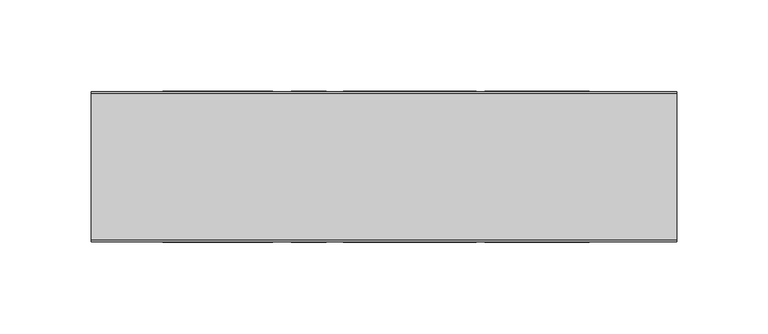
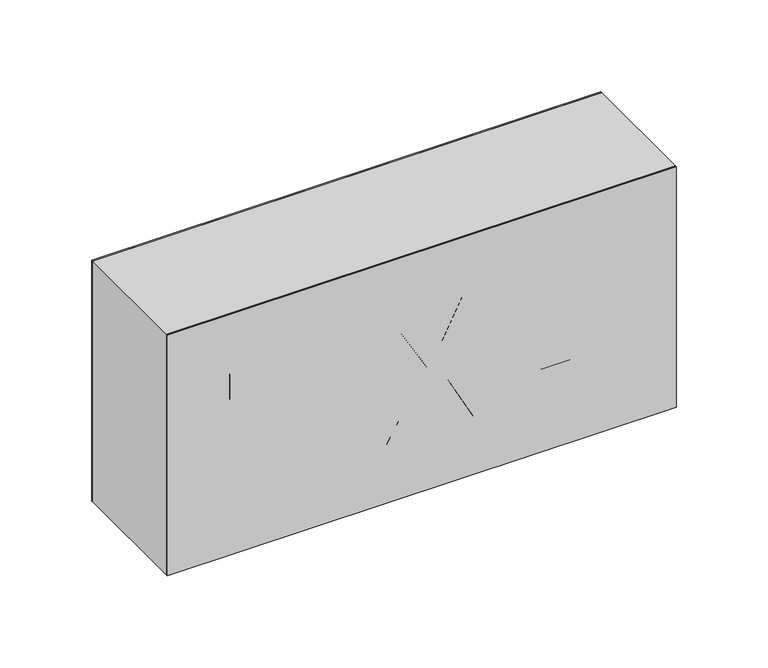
"""IFC4 building model written with IfcOpenShell, lengths in millimetres: light fixture geometry, AI_Luminaire_BAES : Sortie."""

from ifc_helpers import new_model, si_unit, frame, origin, place, context, project, spatial, polyline, outline, extrude, source, transform, mapped, element, save


def light_fixture_1fd30b04(model_context):
    return source(origin(), model_context, "Body", "SweptSolid", [
        extrude(outline(polyline([(160.0, 40.0), (160.0, -40.0), (-160.0, -40.0), (-160.0, 40.0), (160.0, 40.0)])), frame((0.0, 0.0, -40.4480749), z_axis=(0.0, 0.0, 1.0), x_axis=(1.0, 0.0, 0.0)), (0.0, 0.0, 1.0), 160.0),
        extrude(outline(polyline([(-160.0, 41.0), (160.0, 41.0), (160.0, 40.2), (-160.0, 40.2), (-160.0, 41.0)])), frame((0.0, 0.0, -40.4480749), z_axis=(0.0, 0.0, 1.0), x_axis=(1.0, 0.0, 0.0)), (0.0, 0.0, 1.0), 160.0),
        extrude(outline(polyline([(63.8823781, 92.9939271), (47.8823781, 92.9939271), (47.8823781, 62.9939271), (32.5361645, 62.9939271), (32.5361645, 92.9939271), (14.9167358, 92.9939271), (14.9167358, 54.9939271), (-1.1607479, 54.9939271), (-1.1607479, 112.3152081), (79.9598617, 112.3152081), (79.9598617, 54.9939271), (63.8823781, 54.9939271), (63.8823781, 92.9939271)])), frame((0.0, 40.0, 0.0), z_axis=(0.0, 1.0, 0.0), x_axis=(0.0, 0.0, 1.0)), (0.0, 0.0, 1.0), 1.2),
        extrude(outline(polyline([(-1.2252589, 32.0169811), (-1.2252589, 50.4095384), (41.6053757, 25.1932906), (80.0714062, 47.1715926), (80.0714062, 25.0214388), (54.787815, 12.1388057), (80.0714062, -0.7438275), (80.0714062, -19.1439812), (41.6053757, 2.8343208), (-1.2252589, -22.381927), (-1.2252589, 0.3856302), (28.5197006, 16.2013057), (-1.2252589, 32.0169811)])), frame((0.0, 40.0, 0.0), z_axis=(0.0, 1.0, 0.0), x_axis=(0.0, 0.0, 1.0)), (0.0, 0.0, 1.0), 1.2),
        extrude(outline(polyline([(-50.6212787, 41.2), (-31.6527328, 41.2), (-31.6527328, 40.0), (-50.6212787, 40.0), (-50.6212787, 41.2)])), frame((0.0, 0.0, -1.1607479), z_axis=(0.0, 0.0, 1.0), x_axis=(1.0, 0.0, 0.0)), (0.0, 0.0, 1.0), 81.1206097),
        extrude(outline(polyline([(63.4316344, -120.9573689), (63.4316344, -100.5263264), (-1.1607479, -100.5263264), (-1.1607479, -81.6550536), (63.4316344, -81.6550536), (63.4316344, -60.9573689), (79.9598617, -60.9573689), (79.9598617, -120.9573689), (63.4316344, -120.9573689)])), frame((0.0, 40.0, 0.0), z_axis=(0.0, 1.0, 0.0), x_axis=(0.0, 0.0, 1.0)), (0.0, 0.0, 1.0), 1.2),
        extrude(outline(polyline([(160.0, -41.0), (-160.0, -41.0), (-160.0, -40.2), (160.0, -40.2), (160.0, -41.0)])), frame((0.0, 0.0, -40.4480749), z_axis=(0.0, 0.0, 1.0), x_axis=(1.0, 0.0, 0.0)), (0.0, 0.0, 1.0), 160.0),
        extrude(outline(polyline([(0.0, 0.0), (16.0, 0.0), (16.0, 30.0), (31.3462136, 30.0), (31.3462136, 0.0), (48.9656423, 0.0), (48.9656423, 38.0), (65.043126, 38.0), (65.043126, -19.321281), (-16.0774836, -19.321281), (-16.0774836, 38.0), (0.0, 38.0), (0.0, 0.0)])), frame((92.9939271, -41.2, 63.8823781), z_axis=(-3.6444929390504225e-12, 1.0, 0.0), x_axis=(0.0, 0.0, -1.0)), (0.0, 0.0, 1.0), 1.2),
        extrude(outline(polyline([(65.107637, 60.976946), (65.107637, 42.5843887), (22.2770024, 67.8006365), (-16.1890281, 45.8223345), (-16.1890281, 67.9724883), (9.0945631, 80.8551214), (-16.1890281, 93.7377546), (-16.1890281, 112.1379083), (22.2770024, 90.1596063), (65.107637, 115.3758541), (65.107637, 92.6082969), (35.3626775, 76.7926214), (65.107637, 60.976946)])), frame((92.9939271, -41.2, 63.8823781), z_axis=(-3.6444929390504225e-12, 1.0, 0.0), x_axis=(0.0, 0.0, -1.0)), (0.0, 0.0, 1.0), 1.2),
        extrude(outline(polyline([(-31.6527328, -41.2), (-50.6212787, -41.2), (-50.6212787, -40.0), (-31.6527328, -40.0), (-31.6527328, -41.2)])), frame((0.0, 0.0, -1.1607479), z_axis=(0.0, 0.0, 1.0), x_axis=(1.0, 0.0, 0.0)), (0.0, 0.0, 1.0), 81.1206097),
        extrude(outline(polyline([(0.4507437, 213.951296), (0.4507437, 193.5202535), (65.043126, 193.5202535), (65.043126, 174.6489807), (0.4507437, 174.6489807), (0.4507437, 153.951296), (-16.0774836, 153.951296), (-16.0774836, 213.951296), (0.4507437, 213.951296)])), frame((92.9939271, -41.2, 63.8823781), z_axis=(-3.6444929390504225e-12, 1.0, 0.0), x_axis=(0.0, 0.0, -1.0)), (0.0, 0.0, 1.0), 1.2),
    ])


if __name__ == "__main__":
    model = new_model("IFC4")
    model_context = context("Model", 3, world=origin())
    ifc_project = project(units=[si_unit("LENGTHUNIT", "METRE", prefix="MILLI")], contexts=[model_context])
    site = spatial("IfcSite", under=ifc_project)
    building = spatial("IfcBuilding", under=site)
    placement = place(None, origin())
    light_fixture_shape = light_fixture_1fd30b04(model_context)
    element("IfcLightFixture", 1, ObjectType="AI_Luminaire_BAES : Sortie", at=placement, inside=building, context=model_context, shape_type="MappedRepresentation", body=[
        mapped(light_fixture_shape, transform((0.0, 0.0, 0.0), x_axis=(1.0, 0.0, 0.0), y_axis=(0.0, 1.0, 0.0), z_axis=(0.0, 0.0, 1.0))),
    ])
    save(model, "model.ifc")
